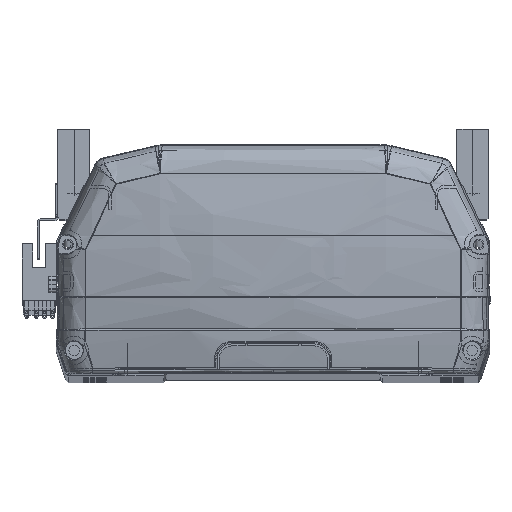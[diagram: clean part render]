
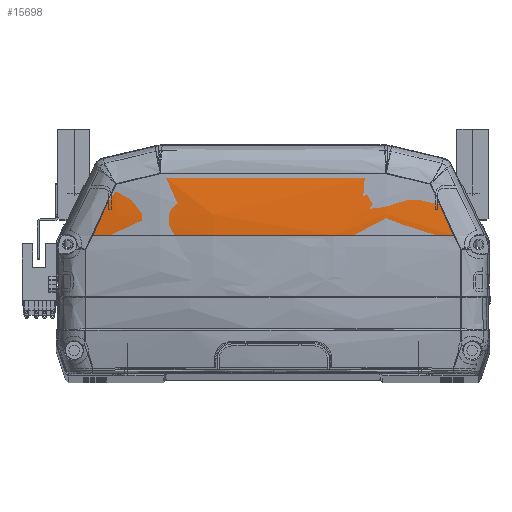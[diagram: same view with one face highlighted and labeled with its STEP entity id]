
A CAD part, top view. The second image highlights one B-rep face of the part: STEP entity #15698.
In plain terms, the highlighted toroidal (fillet/blend) face has major radius 312.5 mm and minor radius 572.4 mm.
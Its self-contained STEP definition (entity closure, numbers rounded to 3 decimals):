
#102 = EDGE_CURVE ( 'NONE', #27526, #34907, #42700, .T. ) ;
#313 = CARTESIAN_POINT ( 'NONE',  ( -67.917, 61.816, -4.208 ) ) ;
#1687 = VERTEX_POINT ( 'NONE', #38424 ) ;
#1778 = CARTESIAN_POINT ( 'NONE',  ( -14.788, 79.361, -1.235 ) ) ;
#3428 = CARTESIAN_POINT ( 'NONE',  ( 61.718, 75.278, -4.232 ) ) ;
#4715 = CARTESIAN_POINT ( 'NONE',  ( 44.331, 79.443, -2.97 ) ) ;
#5208 = DIRECTION ( 'NONE',  ( 1., 0., 0. ) ) ;
#7138 = CARTESIAN_POINT ( 'NONE',  ( -44.331, 79.443, -2.97 ) ) ;
#8483 = EDGE_CURVE ( 'NONE', #27526, #17700, #41316, .T. ) ;
#9436 = AXIS2_PLACEMENT_3D ( 'NONE', #25206, #5208, #18351 ) ;
#9874 = DIRECTION ( 'NONE',  ( 0., 0., 1. ) ) ;
#10134 = B_SPLINE_CURVE_WITH_KNOTS ( 'NONE', 3,
 ( #3428, #33017, #40488, #14152 ),
 .UNSPECIFIED., .F., .F.,
 ( 4, 4 ),
 ( 0., 0.022 ),
 .UNSPECIFIED. ) ;
#10765 = CARTESIAN_POINT ( 'NONE',  ( -50.132, 78.049, -3.29 ) ) ;
#11192 = CARTESIAN_POINT ( 'NONE',  ( -44.331, 79.443, -2.97 ) ) ;
#12063 = CARTESIAN_POINT ( 'NONE',  ( 44.331, 79.443, -2.97 ) ) ;
#12083 = FACE_OUTER_BOUND ( 'NONE', #20410, .T. ) ;
#12119 = VERTEX_POINT ( 'NONE', #21014 ) ;
#13273 = CARTESIAN_POINT ( 'NONE',  ( -61.718, 75.278, -4.232 ) ) ;
#13507 = CARTESIAN_POINT ( 'NONE',  ( -64.813, 68.545, -4.11 ) ) ;
#14152 = CARTESIAN_POINT ( 'NONE',  ( 71.027, 55.096, -4.524 ) ) ;
#14619 = CARTESIAN_POINT ( 'NONE',  ( 50.132, 78.049, -3.29 ) ) ;
#14864 = CARTESIAN_POINT ( 'NONE',  ( 29.579, 79.389, -1.814 ) ) ;
#14998 = CARTESIAN_POINT ( 'NONE',  ( 14.805, 79.361, -1.235 ) ) ;
#15698 = ADVANCED_FACE ( 'NONE', ( #12083 ), #19453, .T. ) ;
#17012 = CARTESIAN_POINT ( 'NONE',  ( -71.027, 55.096, -4.524 ) ) ;
#17485 = AXIS2_PLACEMENT_3D ( 'NONE', #26522, #30018, #9874 ) ;
#17700 = VERTEX_POINT ( 'NONE', #29371 ) ;
#18118 = ORIENTED_EDGE ( 'NONE', *, *, #102, .T. ) ;
#18351 = DIRECTION ( 'NONE',  ( 0., 0., -1. ) ) ;
#19453 = TOROIDAL_SURFACE ( 'NONE', #9436, -312.5, 572.4 ) ;
#20259 = EDGE_CURVE ( 'NONE', #1687, #24536, #40114, .T. ) ;
#20410 = EDGE_LOOP ( 'NONE', ( #36634, #18118, #39424, #34060, #38589, #37466 ) ) ;
#21014 = CARTESIAN_POINT ( 'NONE',  ( 61.718, 75.278, -4.232 ) ) ;
#22670 = EDGE_CURVE ( 'NONE', #17700, #1687, #28064, .T. ) ;
#22752 = CARTESIAN_POINT ( 'NONE',  ( 44.331, 79.443, -2.97 ) ) ;
#22948 = CARTESIAN_POINT ( 'NONE',  ( -55.929, 76.661, -3.711 ) ) ;
#24536 = VERTEX_POINT ( 'NONE', #22752 ) ;
#24661 = CARTESIAN_POINT ( 'NONE',  ( -29.579, 79.39, -1.814 ) ) ;
#25206 = CARTESIAN_POINT ( 'NONE',  ( 0., 55.096, -260. ) ) ;
#26522 = CARTESIAN_POINT ( 'NONE',  ( 0., 55.096, -572.5 ) ) ;
#27458 = CARTESIAN_POINT ( 'NONE',  ( 61.718, 75.278, -4.232 ) ) ;
#27526 = VERTEX_POINT ( 'NONE', #34367 ) ;
#28064 = B_SPLINE_CURVE_WITH_KNOTS ( 'NONE', 3,
 ( #13273, #22948, #10765, #7138 ),
 .UNSPECIFIED., .F., .F.,
 ( 4, 4 ),
 ( 0., 0.018 ),
 .UNSPECIFIED. ) ;
#29371 = CARTESIAN_POINT ( 'NONE',  ( -61.718, 75.278, -4.232 ) ) ;
#30018 = DIRECTION ( 'NONE',  ( 0., 1., 0. ) ) ;
#31246 = CARTESIAN_POINT ( 'NONE',  ( 55.929, 76.66, -3.711 ) ) ;
#31926 = EDGE_CURVE ( 'NONE', #12119, #34907, #10134, .T. ) ;
#33017 = CARTESIAN_POINT ( 'NONE',  ( 64.811, 68.545, -4.037 ) ) ;
#33755 = CARTESIAN_POINT ( 'NONE',  ( -69.472, 58.454, -4.329 ) ) ;
#34060 = ORIENTED_EDGE ( 'NONE', *, *, #36037, .F. ) ;
#34367 = CARTESIAN_POINT ( 'NONE',  ( -71.027, 55.096, -4.524 ) ) ;
#34907 = VERTEX_POINT ( 'NONE', #42952 ) ;
#36037 = EDGE_CURVE ( 'NONE', #24536, #12119, #37774, .T. ) ;
#36634 = ORIENTED_EDGE ( 'NONE', *, *, #8483, .F. ) ;
#37085 = CARTESIAN_POINT ( 'NONE',  ( -63.264, 71.911, -4.135 ) ) ;
#37466 = ORIENTED_EDGE ( 'NONE', *, *, #22670, .F. ) ;
#37774 = B_SPLINE_CURVE_WITH_KNOTS ( 'NONE', 3,
 ( #4715, #14619, #31246, #27458 ),
 .UNSPECIFIED., .F., .F.,
 ( 4, 4 ),
 ( 0., 0.018 ),
 .UNSPECIFIED. ) ;
#38424 = CARTESIAN_POINT ( 'NONE',  ( -44.331, 79.443, -2.97 ) ) ;
#38589 = ORIENTED_EDGE ( 'NONE', *, *, #20259, .F. ) ;
#39424 = ORIENTED_EDGE ( 'NONE', *, *, #31926, .F. ) ;
#40114 = B_SPLINE_CURVE_WITH_KNOTS ( 'NONE', 3,
 ( #11192, #24661, #1778, #14998, #14864, #12063 ),
 .UNSPECIFIED., .F., .F.,
 ( 4, 2, 4 ),
 ( 0., 0.044, 0.089 ),
 .UNSPECIFIED. ) ;
#40410 = CARTESIAN_POINT ( 'NONE',  ( -61.718, 75.278, -4.232 ) ) ;
#40488 = CARTESIAN_POINT ( 'NONE',  ( 67.917, 61.809, -4.135 ) ) ;
#41316 = B_SPLINE_CURVE_WITH_KNOTS ( 'NONE', 3,
 ( #17012, #33755, #313, #13507, #37085, #40410 ),
 .UNSPECIFIED., .F., .F.,
 ( 4, 2, 4 ),
 ( 0.006, 0.017, 0.029 ),
 .UNSPECIFIED. ) ;
#42700 = CIRCLE ( 'NONE', #17485, 572.4 ) ;
#42952 = CARTESIAN_POINT ( 'NONE',  ( 71.027, 55.096, -4.524 ) ) ;
